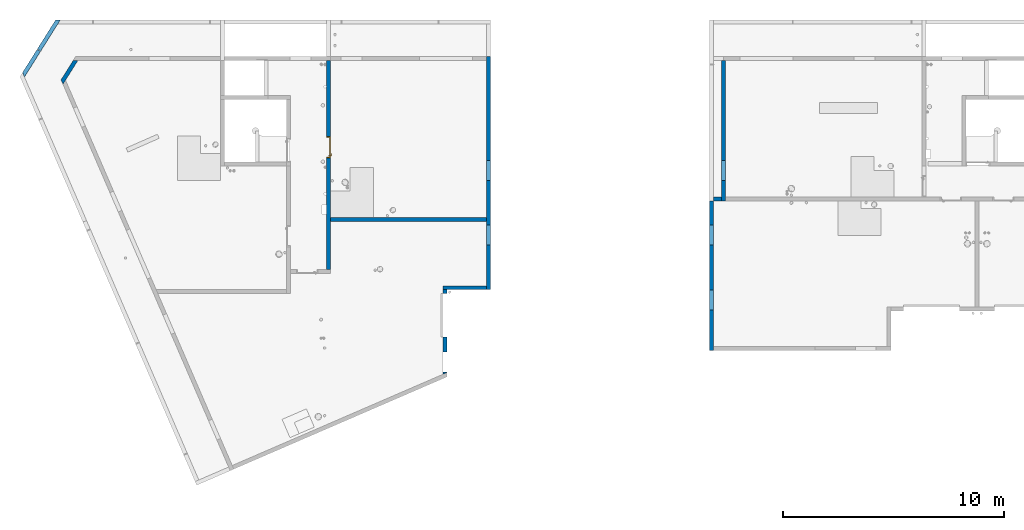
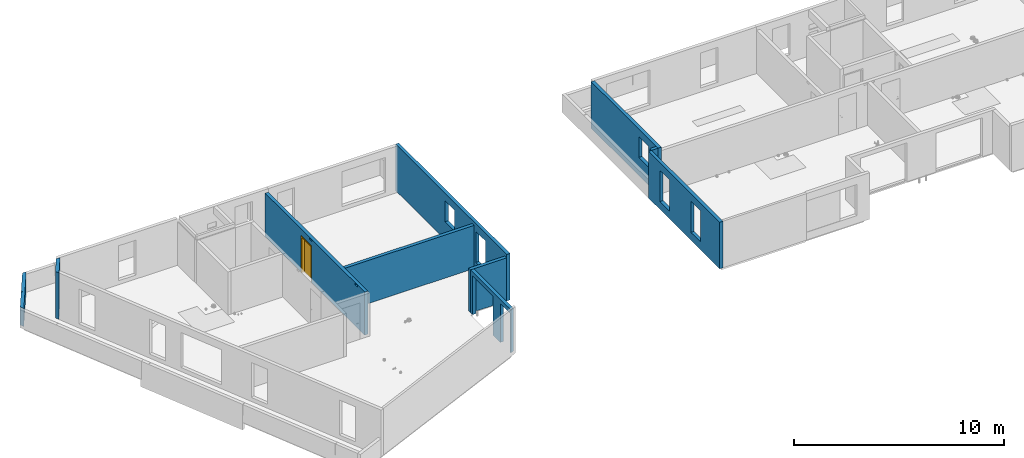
# One storey, part 6 of 28: 10 walls, 1 door, 10 openings.
"""IFC2X3 building model written with IfcOpenShell, lengths in centimetres."""

import ifcopenshell
import ifcopenshell.guid

model = None  # the IFC model being written
_history = None  # IfcOwnerHistory: only IFC2X3 demands one
_inside = {}  # id of a spatial element -> (the spatial element, [elements in it])
_under = {}  # id of a project, library or spatial element -> (it, [spatial elements below it])
_declared = {}  # id of a project -> (the project, [libraries it declares])
_typed = {}  # id of a type object -> (the type object, [elements of that type])
_made_of = {}  # id of a material, layer set ... -> (it, [elements and type objects made of it])


def new_model(schema):
    """Start an empty IFC model of exactly this schema.

    Asked for "IFC4X3", IfcOpenShell would pick the latest addendum, in which some entities
    have other attributes; the version numbers below select the first issue.
    IFC2X3 requires an IfcOwnerHistory on every rooted entity: one is made here for all.
    """
    global model, _history
    if schema == "IFC4X3":
        model = ifcopenshell.file(schema_version=(4, 3, 0, 0))
    else:
        model = ifcopenshell.file(schema=schema)
    _inside.clear()
    _under.clear()
    _declared.clear()
    _typed.clear()
    _made_of.clear()
    _history = None
    if model.schema == "IFC2X3":
        org = make("IfcOrganization", Name="unknown")
        user = make(
            "IfcPersonAndOrganization",
            ThePerson=make("IfcPerson", FamilyName="unknown"),
            TheOrganization=org,
        )
        app = make(
            "IfcApplication",
            ApplicationDeveloper=org,
            Version="unknown",
            ApplicationFullName="unknown",
            ApplicationIdentifier="unknown",
        )
        _history = make(
            "IfcOwnerHistory",
            OwningUser=user,
            OwningApplication=app,
            ChangeAction="ADDED",
            CreationDate=0,
        )
    return model


def make(cls, **values):
    """One entity of the class cls with the attributes given. An attribute that is None is left unset."""
    return model.create_entity(
        cls, **{name: value for name, value in values.items() if value is not None}
    )


def entity(cls, *values):
    """Any entity or typed value of the class cls, its attributes in the order of the schema. None: left unset."""
    e = model.create_entity(cls)
    for i, value in enumerate(values):
        if value is not None:
            e[i] = value
    return e


def rooted(cls, **values):
    """An entity with a GlobalId (a new one), such as an element, a storey or a relation."""
    return make(cls, GlobalId=ifcopenshell.guid.new(), OwnerHistory=_history, **values)


def si_unit(unit_type, name, prefix=None):
    """IfcSIUnit, for example si_unit("LENGTHUNIT", "METRE", prefix="MILLI")."""
    return make("IfcSIUnit", UnitType=unit_type, Prefix=prefix, Name=name)


def converted_unit(unit_type, name, factor, base, dimensions=None, offset=None):
    """IfcConversionBasedUnit, such as the inch: factor (a typed value) times the base unit."""
    return make(
        "IfcConversionBasedUnit"
        if offset is None
        else "IfcConversionBasedUnitWithOffset",
        ConversionOffset=offset,
        Dimensions=None
        if dimensions is None
        else entity("IfcDimensionalExponents", *dimensions),
        UnitType=unit_type,
        Name=name,
        ConversionFactor=make(
            "IfcMeasureWithUnit", ValueComponent=factor, UnitComponent=base
        ),
    )


def derived_unit(unit_type, elements):
    """IfcDerivedUnit: a product of units, each with its exponent."""
    return make(
        "IfcDerivedUnit",
        Elements=[
            make("IfcDerivedUnitElement", Unit=unit, Exponent=power)
            for unit, power in elements
        ],
        UnitType=unit_type,
    )


def assignment(units):
    """IfcUnitAssignment: the units of a project."""
    return None if units is None else make("IfcUnitAssignment", Units=units)


def point(xyz):
    """IfcCartesianPoint."""
    return None if xyz is None else make("IfcCartesianPoint", Coordinates=xyz)


def direction(xyz):
    """IfcDirection."""
    return None if xyz is None else make("IfcDirection", DirectionRatios=xyz)


def frame(location, z_axis=None, x_axis=None):
    """IfcAxis2Placement3D, a coordinate frame: its origin and axes. An axis left out is left unset."""
    return make(
        "IfcAxis2Placement3D",
        Location=point(location),
        Axis=direction(z_axis),
        RefDirection=direction(x_axis),
    )


def frame_2d(location, x_axis=None):
    """IfcAxis2Placement2D, a coordinate frame in the plane: its origin and x axis."""
    return make(
        "IfcAxis2Placement2D", Location=point(location), RefDirection=direction(x_axis)
    )


def origin():
    """The frame at (0, 0, 0) with its axes left unset."""
    return frame((0.0, 0.0, 0.0))


def origin_2d_with_axis():
    """The frame at (0, 0) in the plane with the x axis (1, 0) written out."""
    return frame_2d((0.0, 0.0), x_axis=(1.0, 0.0))


def place(relative_to, where):
    """IfcLocalPlacement: puts the frame where relative to a parent placement (None: the world)."""
    return make(
        "IfcLocalPlacement", PlacementRelTo=relative_to, RelativePlacement=where
    )


def context(
    kind, dimensions, precision=None, world=None, true_north=None, identifier=None
):
    """IfcGeometricRepresentationContext, for example the 3D "Model" context."""
    return make(
        "IfcGeometricRepresentationContext",
        ContextIdentifier=identifier,
        ContextType=kind,
        CoordinateSpaceDimension=dimensions,
        Precision=precision,
        WorldCoordinateSystem=world,
        TrueNorth=true_north,
    )


def subcontext(parent, identifier, kind, view, scale=None):
    """IfcGeometricRepresentationSubContext, for example "Body" below "Model"."""
    return make(
        "IfcGeometricRepresentationSubContext",
        ContextIdentifier=identifier,
        ContextType=kind,
        ParentContext=parent,
        TargetScale=scale,
        TargetView=view,
    )


def project(units=None, contexts=None):
    """IfcProject with its units and contexts."""
    return rooted(
        "IfcProject",
        Name="project",
        RepresentationContexts=contexts,
        UnitsInContext=assignment(units),
    )


def spatial(cls, under=None, at=None, **own):
    """A site, building, storey or space (cls), placed at a placement, below another one or the project."""
    s = rooted(cls, ObjectPlacement=at, **own)
    if under is not None:
        _under.setdefault(under.id(), (under, []))[1].append(s)
    return s


def polyline(points):
    """IfcPolyline through the points."""
    return make("IfcPolyline", Points=[point(p) for p in points])


def profile(cls, at=None, kind="AREA", **sizes):
    """A parametric profile (cls). Its sizes go by their IFC names, for example OverallWidth=200.0."""
    return make(cls, ProfileType=kind, Position=at, **sizes)


def rectangle(**sizes):
    """IfcRectangleProfileDef."""
    return profile("IfcRectangleProfileDef", **sizes)


def outline(outer, holes=None, kind="AREA"):
    """IfcArbitraryClosedProfileDef: a profile drawn as a closed curve; with holes, ...WithVoids."""
    if holes is None:
        return make("IfcArbitraryClosedProfileDef", ProfileType=kind, OuterCurve=outer)
    return make(
        "IfcArbitraryProfileDefWithVoids",
        ProfileType=kind,
        OuterCurve=outer,
        InnerCurves=holes,
    )


def extrude(swept, where, along, depth):
    """IfcExtrudedAreaSolid: the profile swept, set in the frame where, extruded along a direction by depth."""
    return make(
        "IfcExtrudedAreaSolid",
        SweptArea=swept,
        Position=where,
        ExtrudedDirection=direction(along),
        Depth=depth,
    )


def clip(a, b, op="DIFFERENCE"):
    """IfcBooleanClippingResult: the solid a cut by the half space b."""
    return make(
        "IfcBooleanClippingResult", Operator=op, FirstOperand=a, SecondOperand=b
    )


def bounded_halfspace(plane, agree, where, boundary):
    """IfcPolygonalBoundedHalfSpace: a half space limited to a polygon's prism."""
    return make(
        "IfcPolygonalBoundedHalfSpace",
        BaseSurface=make("IfcPlane", Position=plane),
        AgreementFlag=agree,
        Position=where,
        PolygonalBoundary=boundary,
    )


def faces_of(points, faces, orient=None, outer=None):
    """IfcFace entities. A face is a list of loops; a loop is a list of indices into points, from 0.

    orient and outer hold one flag for each loop. By default every Orientation is true, the
    first loop of a face is its IfcFaceOuterBound and the others are IfcFaceBound.
    """
    made = []
    for i, loops in enumerate(faces):
        bounds = []
        for j, loop in enumerate(loops):
            is_outer = j == 0 if outer is None else outer[i][j]
            bounds.append(
                make(
                    "IfcFaceOuterBound" if is_outer else "IfcFaceBound",
                    Bound=make("IfcPolyLoop", Polygon=[points[k] for k in loop]),
                    Orientation=True if orient is None else orient[i][j],
                )
            )
        made.append(make("IfcFace", Bounds=bounds))
    return made


def faceted_brep(points, faces, orient=None, outer=None, voids=None):
    """IfcFacetedBrep: a solid bounded by flat faces; with voids (closed shells), ...WithVoids."""
    shared = [point(p) for p in points]
    hull = make("IfcClosedShell", CfsFaces=faces_of(shared, faces, orient, outer))
    if voids is None:
        return make("IfcFacetedBrep", Outer=hull)
    return make(
        "IfcFacetedBrepWithVoids",
        Outer=hull,
        Voids=[
            make(cls, CfsFaces=faces_of(shared, fs, o, b)) for cls, fs, o, b in voids
        ],
    )


def shape(context_of_items, identifier, shape_type, items):
    """IfcShapeRepresentation: the items that make up one representation, for example the "Body"."""
    return make(
        "IfcShapeRepresentation",
        ContextOfItems=context_of_items,
        RepresentationIdentifier=identifier,
        RepresentationType=shape_type,
        Items=items,
    )


def source(mapping_origin, context_of_items, identifier, shape_type, items):
    """IfcRepresentationMap: a shape defined once, which mapped items show again and again."""
    return make(
        "IfcRepresentationMap",
        MappingOrigin=mapping_origin,
        MappedRepresentation=shape(context_of_items, identifier, shape_type, items),
    )


def transform(
    local_origin,
    x_axis=None,
    y_axis=None,
    z_axis=None,
    scale=None,
    scale2=None,
    scale3=None,
    uniform=True,
):
    """IfcCartesianTransformationOperator3D, or its non-uniform kind. x_axis, y_axis, z_axis: its Axis1, 2, 3."""
    if uniform:
        return make(
            "IfcCartesianTransformationOperator3D",
            Axis1=direction(x_axis),
            Axis2=direction(y_axis),
            LocalOrigin=point(local_origin),
            Scale=scale,
            Axis3=direction(z_axis),
        )
    return make(
        "IfcCartesianTransformationOperator3DnonUniform",
        Axis1=direction(x_axis),
        Axis2=direction(y_axis),
        LocalOrigin=point(local_origin),
        Scale=scale,
        Axis3=direction(z_axis),
        Scale2=scale2,
        Scale3=scale3,
    )


def mapped(mapping_source, mapping_target):
    """IfcMappedItem: shows the shape of a source again, moved by a transform."""
    return make(
        "IfcMappedItem", MappingSource=mapping_source, MappingTarget=mapping_target
    )


def material(Name=None, Category=None):
    """IfcMaterial."""
    return make("IfcMaterial", Name=Name, Category=Category)


def material_list(materials):
    """IfcMaterialList."""
    return make("IfcMaterialList", Materials=materials)


def layer(
    of_material, thickness, ventilated=None, Name=None, Category=None, Priority=None
):
    """IfcMaterialLayer: one layer of a wall or slab, of a material (None: an air gap)."""
    return make(
        "IfcMaterialLayer",
        Material=of_material,
        LayerThickness=thickness,
        IsVentilated=ventilated,
        Name=Name,
        Category=Category,
        Priority=Priority,
    )


def layer_set(layers, Name=None):
    """IfcMaterialLayerSet."""
    return make("IfcMaterialLayerSet", MaterialLayers=layers, LayerSetName=Name)


def layer_usage(for_layer_set, set_direction, sense, offset, extent=None):
    """IfcMaterialLayerSetUsage: how a layer set lies in its element."""
    return make(
        "IfcMaterialLayerSetUsage",
        ForLayerSet=for_layer_set,
        LayerSetDirection=set_direction,
        DirectionSense=sense,
        OffsetFromReferenceLine=offset,
        ReferenceExtent=extent,
    )


def made_of(thing, what):
    """Note that an element or type object is made of a material, layer set ...; save() writes the relation."""
    if what is not None:
        _made_of.setdefault(what.id(), (what, []))[1].append(thing)
    return thing


def type_object(cls, material=None, **own):
    """A type object (cls), such as IfcWallType, which elements share."""
    return made_of(rooted(cls, **own), material)


def type_shapes(of_type, sources):
    """Give a type object the sources (RepresentationMaps) that its elements show as mapped items."""
    of_type.RepresentationMaps = sources


def element(
    cls,
    number,
    at=None,
    inside=None,
    cuts=None,
    type_object=None,
    material=None,
    context=None,
    identifier="Body",
    shape_type=None,
    held_by="IfcProductDefinitionShape",
    body=None,
    shapes=None,
    **own,
):
    """One element of the class cls, such as IfcWall. Its Tag is "e" and its number.

    at: its placement. inside: the storey or other place that contains it. cuts: it is an
    opening in that element (IfcRelVoidsElement). A single representation is given by context,
    identifier, shape_type and body (its items); several are given by shapes. held_by: the class
    of the entity that holds the representations. save() writes the other relations.
    """
    e = rooted(cls, Tag="e%d" % number, ObjectPlacement=at, **own)
    if body is not None:
        shapes = [shape(context, identifier, shape_type, body)]
    if shapes is not None:
        e.Representation = make(held_by, Representations=shapes)
    if inside is not None:
        _inside.setdefault(inside.id(), (inside, []))[1].append(e)
    if cuts is not None:
        rooted(
            "IfcRelVoidsElement", RelatingBuildingElement=cuts, RelatedOpeningElement=e
        )
    if type_object is not None:
        _typed.setdefault(type_object.id(), (type_object, []))[1].append(e)
    return made_of(e, material)


def fill(opening, filler):
    """IfcRelFillsElement: the door or window that sits in an opening."""
    return rooted(
        "IfcRelFillsElement",
        RelatingOpeningElement=opening,
        RelatedBuildingElement=filler,
    )


def aggregate(whole, parts):
    """IfcRelAggregates: a whole, such as a stair, and the parts it consists of."""
    return rooted("IfcRelAggregates", RelatingObject=whole, RelatedObjects=parts)


def save(model, path):
    """Write the relations noted so far, then the file.

    IfcRelAggregates (storeys below a building ...), IfcRelContainedInSpatialStructure (elements
    in a storey), IfcRelDefinesByType, IfcRelAssociatesMaterial and IfcRelDeclares: one each for
    every whole, place, type object, material and project.
    """
    for whole, parts in _under.values():
        aggregate(whole, parts)
    for where, things in _inside.values():
        rooted(
            "IfcRelContainedInSpatialStructure",
            RelatedElements=things,
            RelatingStructure=where,
        )
    for kind, things in _typed.values():
        rooted("IfcRelDefinesByType", RelatedObjects=things, RelatingType=kind)
    for what, things in _made_of.values():
        rooted("IfcRelAssociatesMaterial", RelatedObjects=things, RelatingMaterial=what)
    for by, libraries in _declared.values():
        rooted("IfcRelDeclares", RelatingContext=by, RelatedDefinitions=libraries)
    model.write(path)


model = new_model("IFC2X3")

# Units and contexts
model_context = context("Model", 3, precision=0.001, world=origin(), true_north=direction((6.12303176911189e-17, 1.0)))
body_context = subcontext(model_context, "Body", "Model", "MODEL_VIEW")
ifc_project = project(units=[si_unit("LENGTHUNIT", "METRE", prefix="CENTI"), si_unit("AREAUNIT", "SQUARE_METRE"), si_unit("VOLUMEUNIT", "CUBIC_METRE"), converted_unit("PLANEANGLEUNIT", "DEGREE", entity("IfcRatioMeasure", 0.0174532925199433), si_unit("PLANEANGLEUNIT", "RADIAN"), dimensions=[0, 0, 0, 0, 0, 0, 0]), si_unit("MASSUNIT", "GRAM", prefix="KILO"), derived_unit("MASSDENSITYUNIT", [(si_unit("MASSUNIT", "GRAM", prefix="KILO"), 1), (si_unit("LENGTHUNIT", "METRE"), -3)]), si_unit("TIMEUNIT", "SECOND"), si_unit("FREQUENCYUNIT", "HERTZ"), si_unit("THERMODYNAMICTEMPERATUREUNIT", "DEGREE_CELSIUS"), derived_unit("THERMALTRANSMITTANCEUNIT", [(si_unit("MASSUNIT", "GRAM", prefix="KILO"), 1), (si_unit("THERMODYNAMICTEMPERATUREUNIT", "KELVIN"), -1), (si_unit("TIMEUNIT", "SECOND"), -3)]), derived_unit("VOLUMETRICFLOWRATEUNIT", [(si_unit("LENGTHUNIT", "METRE"), 3), (si_unit("TIMEUNIT", "SECOND"), -1)]), si_unit("ELECTRICCURRENTUNIT", "AMPERE"), si_unit("ELECTRICVOLTAGEUNIT", "VOLT"), si_unit("POWERUNIT", "WATT"), si_unit("FORCEUNIT", "NEWTON"), si_unit("ILLUMINANCEUNIT", "LUX"), si_unit("LUMINOUSFLUXUNIT", "LUMEN"), si_unit("LUMINOUSINTENSITYUNIT", "CANDELA"), derived_unit("USERDEFINED", [(si_unit("MASSUNIT", "GRAM", prefix="KILO"), -1), (si_unit("LENGTHUNIT", "METRE"), -2), (si_unit("TIMEUNIT", "SECOND"), 3), (si_unit("LUMINOUSFLUXUNIT", "LUMEN"), 1)]), derived_unit("LINEARVELOCITYUNIT", [(si_unit("LENGTHUNIT", "METRE"), 1), (si_unit("TIMEUNIT", "SECOND"), -1)]), si_unit("PRESSUREUNIT", "PASCAL"), derived_unit("USERDEFINED", [(si_unit("LENGTHUNIT", "METRE"), -2), (si_unit("MASSUNIT", "GRAM", prefix="KILO"), 1), (si_unit("TIMEUNIT", "SECOND"), -2)])], contexts=[model_context])

# Site, building, storey
site_placement = place(None, origin())
site = spatial("IfcSite", under=ifc_project, at=site_placement, Name="Default", CompositionType="ELEMENT")
building_placement = place(site_placement, origin())
building = spatial("IfcBuilding", under=site, at=building_placement, Name="CAGE 03", CompositionType="ELEMENT")
storey_placement = place(building_placement, frame((0.0, 0.0, 1420.0)))
storey = spatial("IfcBuildingStorey", under=building, at=storey_placement, Name="R+5", CompositionType="ELEMENT", Elevation=1420.0)

# Wall
ifc_material_1 = material(Name="Béton, C25/30")
ifc_layer = layer(ifc_material_1, 18.0)
ifc_layer_set = layer_set([ifc_layer], Name="Mur de base:Voile BA 18")
ifc_layer_usage_1 = layer_usage(ifc_layer_set, "AXIS2", "NEGATIVE", 9.0)
wall_type = type_object("IfcWallType", Name="Mur de base:Voile BA 18", PredefinedType="STANDARD", material=ifc_layer_set)
wall_1_placement = place(storey_placement, frame((2759.68470555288, 5040.14221656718, 0.0), z_axis=(0.0, 0.0, 1.0), x_axis=(0.53179185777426, 0.846875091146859, 0.0)))
element("IfcWallStandardCase", 1, at=wall_1_placement, inside=storey, type_object=wall_type, material=ifc_layer_usage_1, Name="Mur de base:Voile BA 18", ObjectType="Mur de base:Voile BA 18", context=body_context, shape_type="Clipping", body=[
    clip(extrude(outline(polyline([(305.009060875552, -9.0), (293.70603219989, 9.0), (12.3599581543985, 9.0), (0.0, -9.0), (283.754450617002, -9.0), (305.009060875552, -9.0)])), origin(), (0.0, 0.0, 1.0), 105.0), bounded_halfspace(frame((136.615479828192, 9.0, 40.0), z_axis=(0.0, 0.0, 1.0), x_axis=(0.0, -1.0, 0.0)), False, frame((136.615479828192, 9.0, 40.0), z_axis=(0.0, 0.0, 1.0), x_axis=(0.0, -1.0, 0.0)), polyline([(0.0, 0.0), (18.0, 0.0), (18.0, 2.0), (0.0, 2.0), (0.0, 0.0)]))),
])

# Wall, openings
ifc_layer_usage_2 = layer_usage(ifc_layer_set, "AXIS2", "POSITIVE", -9.0)
wall_2_placement = place(storey_placement, frame((4671.36582014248, 3689.23240252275, 0.0), z_axis=(0.0, 0.0, 1.0), x_axis=(0.0, 1.0, 0.0)))
wall_2 = element("IfcWallStandardCase", 2, at=wall_2_placement, inside=storey, type_object=wall_type, material=ifc_layer_usage_2, Name="Mur de base:Voile BA 18", ObjectType="Mur de base:Voile BA 18", context=body_context, shape_type="SweptSolid", body=[
    extrude(outline(polyline([(7.78832528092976, -9.0), (382.928263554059, -9.0), (382.928263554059, 9.0), (0.0, 9.0), (7.78832528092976, -9.0)])), origin(), (0.0, 0.0, 1.0), 250.0),
])
opening_1_placement = place(wall_2_placement, frame((-3689.23240252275, 4671.36582014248, 0.0), z_axis=(0.0, 0.0, 1.0), x_axis=(0.0, -1.0, 0.0)))
element("IfcOpeningElement", 3, at=opening_1_placement, cuts=wall_2, Name="Mur de base:Voile BA 18", ObjectType="Opening", context=body_context, shape_type="SweptSolid", body=[
    extrude(rectangle(XDim=226.0, YDim=91.0000000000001, at=frame_2d((1.13686837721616e-13, 0.0), x_axis=(1.0, 0.0))), frame((4814.76582014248, 3744.66066607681, 113.0), z_axis=(-1.0, 0.0, 0.0), x_axis=(0.0, 0.0, 1.0)), (0.0, 0.0, 1.0), 304.8),
])
opening_2_placement = place(wall_2_placement, frame((-3689.23240252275, 4671.36582014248, 0.0), z_axis=(0.0, 0.0, 1.0), x_axis=(0.0, -1.0, 0.0)))
element("IfcOpeningElement", 4, at=opening_2_placement, cuts=wall_2, Name="Mur de base:Voile BA 18", ObjectType="Opening", context=body_context, shape_type="SweptSolid", body=[
    extrude(rectangle(XDim=226.0, YDim=195.0, at=frame_2d((1.13686837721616e-13, 4.33431068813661e-13), x_axis=(1.0, 0.0))), frame((4814.76582014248, 3956.66066607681, 113.0), z_axis=(-1.0, 0.0, 0.0), x_axis=(0.0, 0.0, 1.0)), (0.0, 0.0, 1.0), 304.8),
])

# Wall
ifc_layer_usage_3 = layer_usage(ifc_layer_set, "AXIS2", "POSITIVE", -9.0)
wall_3_placement = place(storey_placement, frame((4662.36582014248, 4081.16066607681, 0.0)))
element("IfcWallStandardCase", 5, at=wall_3_placement, inside=storey, type_object=wall_type, material=ifc_layer_usage_3, Name="Mur de base:Voile BA 18", ObjectType="Mur de base:Voile BA 18", context=body_context, shape_type="SweptSolid", body=[
    extrude(rectangle(XDim=198.0, YDim=17.9999999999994, at=frame_2d((99.0, -1.06581410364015e-13), x_axis=(-1.0, 0.0))), origin(), (0.0, 0.0, 1.0), 250.0),
])

# Wall, openings
ifc_layer_usage_4 = layer_usage(ifc_layer_set, "AXIS2", "POSITIVE", -9.0)
wall_4_placement = place(storey_placement, frame((4869.36582014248, 4072.16066607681, 0.0), z_axis=(0.0, 0.0, 1.0), x_axis=(0.0, 1.0, 0.0)))
wall_4 = element("IfcWallStandardCase", 6, at=wall_4_placement, inside=storey, type_object=wall_type, material=ifc_layer_usage_4, Name="Mur de base:Voile BA 18", ObjectType="Mur de base:Voile BA 18", context=body_context, shape_type="SweptSolid", body=[
    extrude(rectangle(XDim=1056.5, YDim=17.9999999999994, at=frame_2d((528.249999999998, 1.78523862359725e-13), x_axis=(-1.0, 0.0))), origin(), (0.0, 0.0, 1.0), 270.0),
])
opening_3_placement = place(wall_4_placement, frame((-4072.16066607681, 4869.36582014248, 0.0), z_axis=(0.0, 0.0, 1.0), x_axis=(0.0, -1.0, 0.0)))
element("IfcOpeningElement", 7, at=opening_3_placement, cuts=wall_4, Name="Mur de base:Voile BA 18", ObjectType="Opening", context=body_context, shape_type="SweptSolid", body=[
    extrude(rectangle(XDim=121.0, YDim=91.0000000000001, at=frame_2d((-1.10134124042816e-13, 0.0), x_axis=(1.0, 0.0))), frame((5012.76582014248, 4612.1606660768, 165.5), z_axis=(-1.0, 0.0, 0.0), x_axis=(0.0, 0.0, 1.0)), (0.0, 0.0, 1.0), 304.8),
])
opening_4_placement = place(wall_4_placement, frame((-4072.16066607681, 4869.36582014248, 0.0), z_axis=(0.0, 0.0, 1.0), x_axis=(0.0, -1.0, 0.0)))
element("IfcOpeningElement", 8, at=opening_4_placement, cuts=wall_4, Name="Mur de base:Voile BA 18", ObjectType="Opening", context=body_context, shape_type="SweptSolid", body=[
    extrude(rectangle(XDim=181.0, YDim=91.0000000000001, at=origin_2d_with_axis()), frame((5012.76582014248, 4320.1606660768, 135.5), z_axis=(-1.0, 0.0, 0.0), x_axis=(0.0, 0.0, 1.0)), (0.0, 0.0, 1.0), 304.8),
])

# Walls
ifc_layer_usage_5 = layer_usage(ifc_layer_set, "AXIS2", "NEGATIVE", 9.0)
wall_5_placement = place(storey_placement, frame((4152.36582014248, 4391.16066607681, 0.0)))
element("IfcWallStandardCase", 9, at=wall_5_placement, inside=storey, type_object=wall_type, material=ifc_layer_usage_5, Name="Mur de base:Voile BA 18", ObjectType="Mur de base:Voile BA 18", context=body_context, shape_type="SweptSolid", body=[
    extrude(rectangle(XDim=708.000000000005, YDim=17.9999999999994, at=frame_2d((354.000000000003, 2.16715534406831e-13), x_axis=(-1.0, 0.0))), origin(), (0.0, 0.0, 1.0), 250.0),
])
ifc_layer_usage_6 = layer_usage(ifc_layer_set, "AXIS2", "NEGATIVE", 9.0)
wall_6_placement = place(storey_placement, frame((5870.36582014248, 4483.6606660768, 0.0)))
element("IfcWallStandardCase", 10, at=wall_6_placement, inside=storey, type_object=wall_type, material=ifc_layer_usage_6, Name="Mur de base:Voile BA 18", ObjectType="Mur de base:Voile BA 18", context=body_context, shape_type="SweptSolid", body=[
    extrude(rectangle(XDim=34.9999999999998, YDim=18.0000000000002, at=frame_2d((35.5000000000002, -3.17079695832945e-13), x_axis=(-1.0, 0.0))), origin(), (0.0, 0.0, 1.0), 270.0),
])

# Wall, openings, door
ifc_layer_usage_7 = layer_usage(ifc_layer_set, "AXIS2", "POSITIVE", -9.0)
wall_7_placement = place(storey_placement, frame((4143.36582014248, 5110.66066607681, 0.0), z_axis=(0.0, 0.0, 1.0), x_axis=(0.0, -1.0, 0.0)))
wall_7 = element("IfcWallStandardCase", 11, at=wall_7_placement, inside=storey, type_object=wall_type, material=ifc_layer_usage_7, Name="Mur de base:Voile BA 18", ObjectType="Mur de base:Voile BA 18", context=body_context, shape_type="SweptSolid", body=[
    extrude(rectangle(XDim=946.999999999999, YDim=17.9999999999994, at=frame_2d((473.499999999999, -1.70530256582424e-13), x_axis=(-1.0, 0.0))), origin(), (0.0, 0.0, 1.0), 250.0),
])
opening_5_placement = place(wall_7_placement, origin())
element("IfcOpeningElement", 12, at=opening_5_placement, cuts=wall_7, Name="Mur de base:Voile BA 18", ObjectType="Opening", context=body_context, shape_type="SweptSolid", body=[
    extrude(rectangle(XDim=10.0000000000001, YDim=19.9999999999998, at=frame_2d((4.33431068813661e-13, -1.08357767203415e-13), x_axis=(0.0, 1.0))), frame((866.0, -9.0, 242.500000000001), z_axis=(0.0, 1.0, 0.0), x_axis=(1.0, 0.0, 0.0)), (0.0, 0.0, 1.0), 17.9999999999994),
])
opening_6_placement = place(wall_7_placement, origin())
element("IfcOpeningElement", 13, at=opening_6_placement, cuts=wall_7, Name="Mur de base:Voile BA 18", ObjectType="Opening", context=body_context, shape_type="SweptSolid", body=[
    extrude(rectangle(XDim=10.0000000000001, YDim=19.9999999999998, at=frame_2d((-4.33431068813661e-13, -1.08357767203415e-13), x_axis=(0.0, 1.0))), frame((433.500000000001, -9.0, 242.500000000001), z_axis=(0.0, 1.0, 0.0), x_axis=(1.0, 0.0, 0.0)), (0.0, 0.0, 1.0), 17.9999999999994),
])
opening_7_placement = place(wall_7_placement, frame((344.500000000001, -9.0, 0.0)))
opening_7 = element("IfcOpeningElement", 14, at=opening_7_placement, cuts=wall_7, Name="Int. Simple:HB93:1", ObjectType="Opening", context=body_context, shape_type="SweptSolid", body=[
    extrude(rectangle(XDim=210.000000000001, YDim=96.9999999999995, at=frame_2d((105.000000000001, 48.4999999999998), x_axis=(1.0, 0.0))), frame((0.0, 0.0, 0.0), z_axis=(0.0, 1.0, 0.0), x_axis=(0.0, 0.0, 1.0)), (0.0, 0.0, 1.0), 18.0),
])
ifc_material_2 = material(Name="Finition Peinture - Blanc satiné")
ifc_material_3 = material(Name="Bois - Panneau de porte")
ifc_material_4 = material(Name="Bois - Cadre de porte")
ifc_material_list_1 = material_list([ifc_material_2, ifc_material_3, ifc_material_4])
ifc_material_list_2 = material_list([ifc_material_2, ifc_material_3, ifc_material_4])
door_style = type_object("IfcDoorStyle", Name="HB93", ConstructionType="NOTDEFINED", OperationType="SINGLE_SWING_LEFT", ParameterTakesPrecedence=False, Sizeable=False, material=ifc_material_list_2)
shared_shape = source(origin(), body_context, "Body", "Brep", [
    faceted_brep([(10.5352761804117, -0.500000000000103, 86.6003983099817), (11.5000000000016, -0.500000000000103, 87.0), (11.5000000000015, -0.500000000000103, 108.0), (10.5352761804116, -0.500000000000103, 108.399601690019), (9.50000000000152, -0.500000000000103, 108.535898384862), (8.46472381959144, -0.500000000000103, 108.399601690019), (7.50000000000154, -0.500000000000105, 108.0), (7.50000000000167, -0.500000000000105, 87.0), (8.46472381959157, -0.500000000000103, 86.6003983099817), (9.50000000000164, -0.500000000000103, 86.464101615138), (10.5352761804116, 0.0, 108.399601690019), (11.5000000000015, 0.0, 108.0), (11.5000000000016, 0.0, 87.0), (10.5352761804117, 0.0, 86.6003983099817), (9.50000000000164, 0.0, 86.464101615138), (8.46472381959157, 0.0, 86.6003983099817), (7.50000000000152, 0.0, 87.0), (7.50000000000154, 0.0, 108.0), (8.46472381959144, 0.0, 108.399601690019), (9.50000000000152, 0.0, 108.535898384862)], [[[0, 1, 2, 3, 4, 5, 6, 7, 8, 9]], [[10, 11, 12, 13, 14, 15, 16, 17, 18, 19]], [[16, 15, 8, 7]], [[8, 15, 14, 9]], [[14, 13, 0, 9]], [[13, 12, 1, 0]], [[2, 1, 12, 11]], [[11, 10, 3, 2]], [[3, 10, 19, 4]], [[19, 18, 5, 4]], [[18, 17, 6, 5]], [[7, 6, 17, 16]]]),
    faceted_brep([(10.5352761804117, 4.0, 86.6003983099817), (11.5000000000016, 4.0, 87.0), (11.5000000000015, 4.0, 108.0), (10.5352761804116, 4.0, 108.399601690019), (9.50000000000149, 4.0, 108.535898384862), (8.46472381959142, 4.0, 108.399601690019), (7.50000000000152, 4.0, 108.0), (7.50000000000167, 4.0, 87.0), (8.46472381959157, 4.0, 86.6003983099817), (9.50000000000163, 4.0, 86.464101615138), (10.5352761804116, 4.49999999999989, 108.399601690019), (11.5000000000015, 4.4999999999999, 108.0), (11.5000000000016, 4.4999999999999, 87.0), (10.5352761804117, 4.49999999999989, 86.6003983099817), (9.50000000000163, 4.49999999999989, 86.464101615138), (8.46472381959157, 4.49999999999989, 86.6003983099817), (7.50000000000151, 4.49999999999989, 87.0), (7.50000000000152, 4.49999999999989, 108.0), (8.46472381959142, 4.49999999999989, 108.399601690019), (9.50000000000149, 4.49999999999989, 108.535898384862)], [[[0, 1, 2, 3, 4, 5, 6, 7, 8, 9]], [[10, 11, 12, 13, 14, 15, 16, 17, 18, 19]], [[11, 10, 3, 2]], [[3, 10, 19, 4]], [[19, 18, 5, 4]], [[18, 17, 6, 5]], [[7, 6, 17, 16]], [[16, 15, 8, 7]], [[8, 15, 14, 9]], [[14, 13, 0, 9]], [[13, 12, 1, 0]], [[2, 1, 12, 11]]]),
    faceted_brep([(9.29747013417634, -0.500000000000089, 100.778044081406), (9.70252986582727, -0.500000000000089, 100.778044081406), (10.1000000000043, -0.500000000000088, 100.699999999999), (10.1000000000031, -0.500000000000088, 99.3000000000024), (9.70252986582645, -0.500000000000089, 99.2219559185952), (9.29747013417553, -0.500000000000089, 99.221955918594), (8.89999999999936, -0.500000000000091, 99.2999999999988), (8.89999999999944, -0.500000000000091, 100.7), (8.89999999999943, -3.26509507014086, 100.7), (9.29747013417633, -3.10045754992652, 100.778044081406), (10.9023585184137, -4.70534593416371, 100.778044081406), (11.0701397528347, -4.30028620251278, 100.778044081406), (9.70252986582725, -2.93267631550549, 100.778044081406), (10.1000000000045, -2.76803879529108, 100.7), (10.1000000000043, -2.76803879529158, 99.3000000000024), (9.70252986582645, -2.93267631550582, 99.2219559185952), (11.0701397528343, -4.30028620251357, 99.2219559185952), (10.9023585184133, -4.70534593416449, 99.221955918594), (9.29747013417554, -3.10045754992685, 99.221955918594), (8.89999999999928, -3.26509507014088, 99.2999999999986), (10.7377209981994, -5.1028160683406, 100.7), (11.2347772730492, -3.90281606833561, 100.7), (11.2347772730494, -3.90281606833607, 99.3000000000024), (10.7377209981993, -5.10281606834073, 99.2999999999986), (19.5018640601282, -5.1028160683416, 99.2999999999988), (19.5018640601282, -4.70534593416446, 99.221955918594), (19.5018640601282, -4.30028620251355, 99.2219559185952), (19.5018640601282, -3.90281606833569, 99.3000000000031), (19.5018640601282, -3.90281606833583, 100.7), (19.5018640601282, -4.30028620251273, 100.778044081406), (19.5018640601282, -4.70534593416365, 100.778044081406), (19.5018640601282, -5.10281606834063, 100.699999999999), (14.7307697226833, -5.10281606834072, 100.7), (15.28600190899, -4.5028160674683, 100.78786867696), (15.3683206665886, -3.9028160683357, 100.7), (15.3683206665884, -3.90281606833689, 99.3000000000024), (15.2860018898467, -4.50281607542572, 99.2121313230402), (14.7307700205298, -5.10281606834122, 99.2999999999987)], [[[0, 1, 2, 3, 4, 5, 6, 7]], [[8, 9, 0, 7]], [[9, 10, 11, 12, 1, 0]], [[12, 13, 2, 1]], [[3, 2, 13, 14]], [[14, 15, 4, 3]], [[15, 16, 17, 18, 5, 4]], [[18, 19, 6, 5]], [[7, 6, 19, 8]], [[20, 10, 9, 8]], [[11, 21, 13, 12]], [[14, 13, 21, 22]], [[22, 16, 15, 14]], [[17, 23, 19, 18]], [[8, 19, 23, 20]], [[24, 25, 26, 27, 28, 29, 30, 31]], [[32, 30, 33]], [[31, 30, 32]], [[10, 20, 32]], [[33, 34, 11]], [[21, 11, 34]], [[34, 29, 28]], [[30, 29, 33]], [[29, 34, 33]], [[10, 32, 33]], [[10, 33, 11]], [[22, 21, 34, 28, 27, 35]], [[35, 26, 36]], [[37, 36, 25]], [[22, 35, 16]], [[35, 27, 26]], [[24, 37, 25]], [[23, 17, 37]], [[37, 17, 36]], [[17, 16, 36]], [[16, 35, 36]], [[25, 36, 26]], [[20, 23, 37, 24, 31, 32]]]),
    faceted_brep([(9.29747013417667, 4.49999999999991, 100.778044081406), (8.89999999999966, 4.49999999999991, 100.7), (8.89999999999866, 4.49999999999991, 99.2999999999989), (9.2974701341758, 4.49999999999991, 99.221955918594), (9.70252986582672, 4.49999999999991, 99.2219559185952), (10.1000000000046, 4.49999999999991, 99.3000000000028), (10.1000000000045, 4.49999999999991, 100.7), (9.70252986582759, 4.49999999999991, 100.778044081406), (10.1000000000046, 6.7485204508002, 99.3000000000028), (10.1000000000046, 6.74852045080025, 100.7), (9.70252986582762, 6.91315797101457, 100.778044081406), (11.0838906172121, 8.29451872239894, 100.778044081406), (10.9161093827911, 8.69957845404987, 100.778044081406), (9.29747013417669, 7.0809392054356, 100.778044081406), (8.89999999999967, 7.24557672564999, 100.7), (8.89999999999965, 7.24557672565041, 99.2999999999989), (9.29747013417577, 7.08093920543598, 99.221955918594), (10.9161093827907, 8.69957845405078, 99.221955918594), (11.0838906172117, 8.29451872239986, 99.2219559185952), (9.7025298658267, 6.91315797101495, 99.2219559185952), (11.2485281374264, 7.89704858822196, 99.3000000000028), (11.2485281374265, 7.89704858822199, 100.7), (10.7514718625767, 9.0970485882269, 100.7), (10.751471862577, 9.0970485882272, 99.2999999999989), (19.504578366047, 7.89704858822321, 99.3000000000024), (19.504578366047, 8.29451872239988, 99.2219559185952), (19.504578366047, 8.6995784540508, 99.221955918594), (19.504578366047, 9.09704858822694, 99.2999999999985), (19.504578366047, 9.09704858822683, 100.7), (19.504578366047, 8.69957845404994, 100.778044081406), (19.504578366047, 8.29451872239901, 100.778044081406), (19.504578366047, 7.89704858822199, 100.7), (15.3765520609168, 7.89704858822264, 99.3000000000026), (15.3765532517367, 7.89704858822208, 100.7), (15.294234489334, 8.49704858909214, 100.78786867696), (14.7445205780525, 9.09704858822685, 100.7), (14.7445204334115, 9.09704858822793, 99.2999999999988), (15.2942345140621, 8.49704858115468, 99.2121313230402)], [[[0, 1, 2, 3, 4, 5, 6, 7]], [[6, 5, 8, 9]], [[9, 10, 7, 6]], [[10, 11, 12, 13, 0, 7]], [[13, 14, 1, 0]], [[2, 1, 14, 15]], [[15, 16, 3, 2]], [[16, 17, 18, 19, 4, 3]], [[19, 8, 5, 4]], [[9, 8, 20, 21]], [[21, 11, 10, 9]], [[12, 22, 14, 13]], [[15, 14, 22, 23]], [[23, 17, 16, 15]], [[18, 20, 8, 19]], [[24, 25, 26, 27, 28, 29, 30, 31]], [[21, 20, 32, 24, 31, 33]], [[33, 30, 34]], [[35, 34, 29]], [[21, 33, 11]], [[33, 31, 30]], [[28, 35, 29]], [[22, 12, 35]], [[35, 12, 34]], [[12, 11, 34]], [[11, 33, 34]], [[29, 34, 30]], [[22, 35, 28, 27, 36, 23]], [[36, 26, 37]], [[27, 26, 36]], [[17, 23, 36]], [[37, 32, 18]], [[20, 18, 32]], [[32, 25, 24]], [[26, 25, 37]], [[25, 32, 37]], [[17, 36, 37]], [[17, 37, 18]]]),
    faceted_brep([(3.50000000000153, 4.0, 206.5), (93.5000000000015, 4.0, 206.5), (93.5000000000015, 4.0, 0.0), (3.50000000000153, 4.0, 0.0), (3.50000000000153, 0.0, 206.5), (3.50000000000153, 0.0, 0.0), (93.5000000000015, 0.0, 0.0), (93.5000000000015, 0.0, 206.5)], [[[0, 1, 2, 3]], [[4, 5, 6, 7]], [[1, 0, 4, 7]], [[2, 1, 7, 6]], [[3, 2, 6, 5]], [[0, 3, 5, 4]]]),
    faceted_brep([(0.0, 0.0, 0.0), (0.0, 18.0, 0.0), (5.0, 18.0, 0.0), (5.0, 4.0, 0.0), (3.50000000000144, 4.0, 0.0), (3.50000000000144, 0.0, 0.0), (0.0, 0.0, 210.0), (0.0, 18.0, 210.0), (97.0, 18.0, 210.0), (97.0, 18.0, 0.0), (92.0, 18.0, 0.0), (92.0, 18.0, 205.0), (5.0, 18.0, 205.0), (5.0, 4.0, 205.0), (92.0, 4.0, 205.0), (92.0, 4.0, 0.0), (93.4999999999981, 4.0, 0.0), (93.4999999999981, 4.0, 206.5), (3.50000000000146, 4.0, 206.5), (3.50000000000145, 0.0, 206.5), (93.4999999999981, 0.0, 206.5), (93.4999999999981, 0.0, 0.0), (97.0, 0.0, 0.0), (97.0, 0.0, 210.0)], [[[0, 1, 2, 3, 4, 5]], [[1, 0, 6, 7]], [[2, 1, 7, 8, 9, 10, 11, 12]], [[3, 2, 12, 13]], [[4, 3, 13, 14, 15, 16, 17, 18]], [[5, 4, 18, 19]], [[0, 5, 19, 20, 21, 22, 23, 6]], [[8, 23, 22, 9]], [[22, 21, 16, 15, 10, 9]], [[14, 11, 10, 15]], [[20, 17, 16, 21]], [[7, 6, 23, 8]], [[13, 12, 11, 14]], [[19, 18, 17, 20]]]),
    faceted_brep([(1.5, 18.0, 0.0), (-1.49999999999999, 18.0, 0.0), (-1.49999999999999, 18.5000000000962, 0.0), (1.5, 18.5000000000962, 0.0), (1.5, 18.0, 208.500000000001), (95.4999999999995, 18.0, 208.500000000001), (95.4999999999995, 18.0, 0.0), (98.4999999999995, 18.0, 0.0), (98.4999999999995, 18.0, 211.500000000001), (-1.49999999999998, 18.0, 211.500000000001), (-1.49999999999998, 18.5000000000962, 211.500000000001), (98.4999999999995, 18.5000000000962, 211.500000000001), (98.4999999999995, 18.5000000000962, 0.0), (95.4999999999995, 18.5000000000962, 0.0), (95.4999999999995, 18.5000000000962, 208.500000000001), (1.50000000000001, 18.5000000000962, 208.500000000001)], [[[0, 1, 2, 3]], [[1, 0, 4, 5, 6, 7, 8, 9]], [[2, 1, 9, 10]], [[3, 2, 10, 11, 12, 13, 14, 15]], [[0, 3, 15, 4]], [[6, 13, 12, 7]], [[5, 14, 13, 6]], [[11, 8, 7, 12]], [[10, 9, 8, 11]], [[4, 15, 14, 5]]]),
    faceted_brep([(-1.49999999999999, -0.5, 0.0), (1.5, -0.5, 0.0), (1.5, -0.5, 208.500000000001), (95.4999999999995, -0.5, 208.500000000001), (95.4999999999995, -0.5, 0.0), (98.4999999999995, -0.5, 0.0), (98.4999999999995, -0.5, 211.500000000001), (-1.49999999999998, -0.5, 211.500000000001), (-1.49999999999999, 0.0, 0.0), (-1.49999999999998, 0.0, 211.500000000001), (1.5, 0.0, 0.0), (98.4999999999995, 0.0, 211.500000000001), (98.4999999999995, 0.0, 0.0), (95.4999999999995, 0.0, 0.0), (95.4999999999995, 0.0, 208.500000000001), (1.50000000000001, 0.0, 208.500000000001)], [[[0, 1, 2, 3, 4, 5, 6, 7]], [[8, 0, 7, 9]], [[10, 8, 9, 11, 12, 13, 14, 15]], [[1, 10, 15, 2]], [[3, 14, 13, 4]], [[11, 6, 5, 12]], [[9, 7, 6, 11]], [[2, 15, 14, 3]], [[4, 13, 12, 5]], [[1, 0, 8, 10]]]),
])
type_shapes(door_style, [shared_shape])
door_placement = place(opening_7_placement, frame((97.0, 18.0, 0.0), z_axis=(0.0, 0.0, 1.0), x_axis=(-1.0, 0.0, 0.0)))
door = element("IfcDoor", 15, at=door_placement, inside=storey, type_object=door_style, material=ifc_material_list_1, Name="Int. Simple:HB93", ObjectType="HB93", OverallHeight=210.000000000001, OverallWidth=96.9999999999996, context=body_context, shape_type="MappedRepresentation", body=[
    mapped(shared_shape, transform((0.0, 0.0, 0.0), scale=1.0)),
])
fill(opening_7, door)

# Wall
ifc_layer_usage_8 = layer_usage(ifc_layer_set, "AXIS2", "NEGATIVE", 9.0)
wall_8_placement = place(storey_placement, frame((2933.99609633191, 5007.46020989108, 0.0), z_axis=(0.0, 0.0, 1.0), x_axis=(0.53179185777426, 0.846875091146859, 0.0)))
element("IfcWallStandardCase", 16, at=wall_8_placement, inside=storey, type_object=wall_type, material=ifc_layer_usage_8, Name="Mur de base:Voile BA 18", ObjectType="Mur de base:Voile BA 18", context=body_context, shape_type="SweptSolid", body=[
    extrude(outline(polyline([(127.511818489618, -9.0), (116.208789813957, 9.0), (12.3599581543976, 9.0), (0.0, -9.0), (21.8350306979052, -9.0), (127.511818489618, -9.0)])), origin(), (0.0, 0.0, 1.0), 270.0),
])

# Wall, opening
ifc_layer_usage_9 = layer_usage(ifc_layer_set, "AXIS2", "POSITIVE", -9.0)
wall_9_placement = place(storey_placement, frame((5932.36582014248, 5110.6606660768, 0.0), z_axis=(0.0, 0.0, 1.0), x_axis=(0.0, -1.0, 0.0)))
wall_9 = element("IfcWallStandardCase", 17, at=wall_9_placement, inside=storey, type_object=wall_type, material=ifc_layer_usage_9, Name="Mur de base:Voile BA 18", ObjectType="Mur de base:Voile BA 18", context=body_context, shape_type="SweptSolid", body=[
    extrude(rectangle(XDim=636.000000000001, YDim=17.9999999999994, at=frame_2d((318.0, 4.08562073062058e-14), x_axis=(-1.0, 0.0))), origin(), (0.0, 0.0, 1.0), 270.0),
])
opening_8_placement = place(wall_9_placement, frame((5110.6606660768, -5932.36582014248, 0.0), z_axis=(0.0, 0.0, 1.0), x_axis=(0.0, 1.0, 0.0)))
element("IfcOpeningElement", 18, at=opening_8_placement, cuts=wall_9, Name="Mur de base:Voile BA 18", ObjectType="Opening", context=body_context, shape_type="SweptSolid", body=[
    extrude(rectangle(XDim=121.0, YDim=91.0000000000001, at=frame_2d((0.0, -1.10134124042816e-13), x_axis=(0.0, 1.0))), frame((5788.96582014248, 4612.1606660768, 165.5), z_axis=(1.0, 0.0, 0.0), x_axis=(0.0, 1.0, 0.0)), (0.0, 0.0, 1.0), 304.8),
])

# Wall, openings
ifc_layer_usage_10 = layer_usage(ifc_layer_set, "AXIS2", "POSITIVE", -9.0)
wall_10_placement = place(storey_placement, frame((5879.36582014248, 4474.6606660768, 0.0), z_axis=(0.0, 0.0, 1.0), x_axis=(0.0, -1.0, 0.0)))
wall_10 = element("IfcWallStandardCase", 19, at=wall_10_placement, inside=storey, type_object=wall_type, material=ifc_layer_usage_10, Name="Mur de base:Voile BA 18", ObjectType="Mur de base:Voile BA 18", context=body_context, shape_type="SweptSolid", body=[
    extrude(rectangle(XDim=677.999999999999, YDim=17.9999999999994, at=frame_2d((338.999999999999, 7.19424519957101e-14), x_axis=(-1.0, 0.0))), origin(), (0.0, 0.0, 1.0), 270.0),
])
opening_9_placement = place(wall_10_placement, frame((4474.6606660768, -5879.36582014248, 0.0), z_axis=(0.0, 0.0, 1.0), x_axis=(0.0, 1.0, 0.0)))
element("IfcOpeningElement", 20, at=opening_9_placement, cuts=wall_10, Name="Mur de base:Voile BA 18", ObjectType="Opening", context=body_context, shape_type="SweptSolid", body=[
    extrude(rectangle(XDim=181.0, YDim=91.0000000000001, at=frame_2d((0.0, -2.1316282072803e-13), x_axis=(0.0, 1.0))), frame((5735.96582014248, 4025.16066607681, 135.5), z_axis=(1.0, 0.0, 0.0), x_axis=(0.0, 1.0, 0.0)), (0.0, 0.0, 1.0), 304.8),
])
opening_10_placement = place(wall_10_placement, frame((4474.6606660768, -5879.36582014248, 0.0), z_axis=(0.0, 0.0, 1.0), x_axis=(0.0, 1.0, 0.0)))
element("IfcOpeningElement", 21, at=opening_10_placement, cuts=wall_10, Name="Mur de base:Voile BA 18", ObjectType="Opening", context=body_context, shape_type="SweptSolid", body=[
    extrude(rectangle(XDim=181.0, YDim=91.0000000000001, at=frame_2d((0.0, -2.1316282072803e-13), x_axis=(0.0, 1.0))), frame((5735.96582014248, 4320.1606660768, 135.5), z_axis=(1.0, 0.0, 0.0), x_axis=(0.0, 1.0, 0.0)), (0.0, 0.0, 1.0), 304.8),
])

save(model, "model.ifc")
